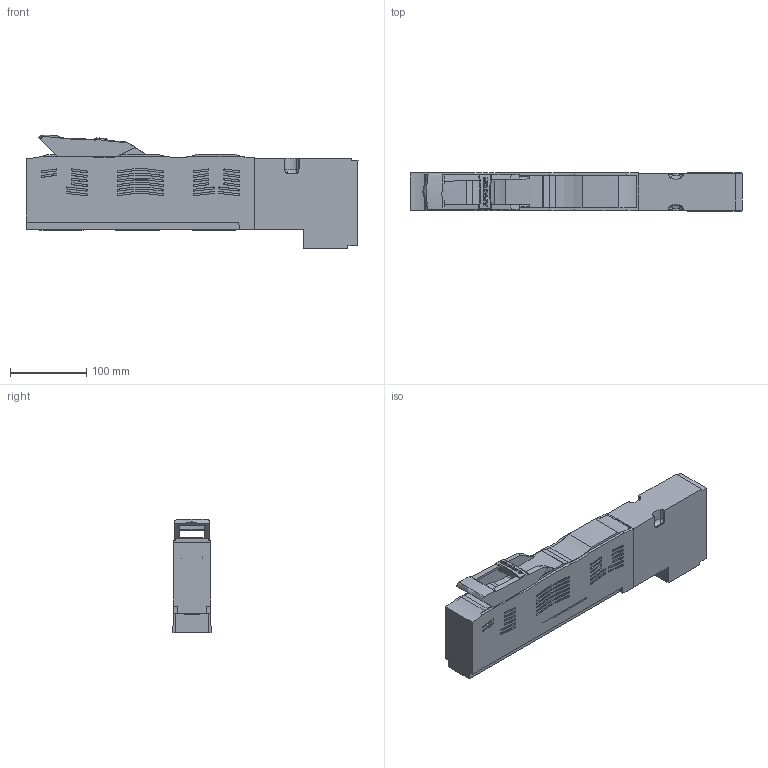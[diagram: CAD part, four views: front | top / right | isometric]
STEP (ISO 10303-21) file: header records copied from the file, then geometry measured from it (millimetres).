
FILE_DESCRIPTION(/* description */ (''),/* implementation_level */ '2;1');
FILE_NAME(/* name */ 'ARS 00 100 M.stp',/* time_stamp */ '2019-04-30T14:37:32+02:00',/* author */ (''),/* organization */ (''),/* preprocessor_version */ 'ST-DEVELOPER v16',/* originating_system */ 'SIEMENS PLM Software NX 10.0',/* authorisation */ '');
FILE_SCHEMA (('AUTOMOTIVE_DESIGN { 1 0 10303 214 3 1 1 1 }'));
Products named in the file (1): 710_33C40461rqui
Bounding box: 435.74 x 50.04 x 149.2 mm (x, y, z)
Volume: 1769428.4 mm3; surface area: 191660.3 mm2
Topology: 2 solids, 18 shells, 771 faces, 1986 edges, 1320 vertices
Faces by surface type: bspline 351, plane 306, cylinder 47, extrusion 39, sphere 12, cone 12, torus 4
Full cylindrical faces by diameter (mm): 8.5 x1, 9 x1
Entity records: 67380 total; most frequent: CARTESIAN_POINT 52020, ORIENTED_EDGE 3964, EDGE_CURVE 1982, DIRECTION 1732, VERTEX_POINT 1319, B_SPLINE_CURVE_WITH_KNOTS 1214, EDGE_LOOP 849, ADVANCED_FACE 769
